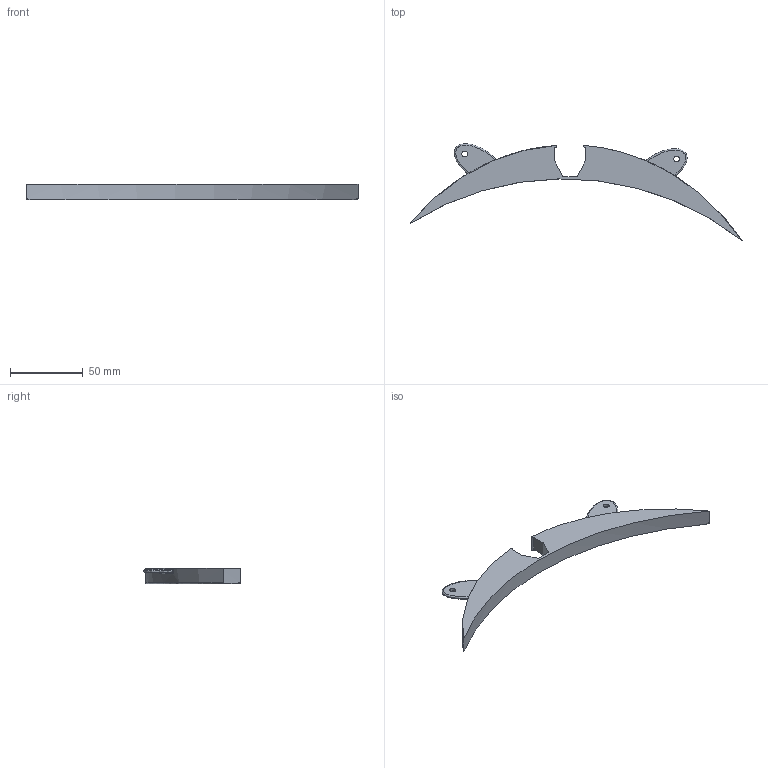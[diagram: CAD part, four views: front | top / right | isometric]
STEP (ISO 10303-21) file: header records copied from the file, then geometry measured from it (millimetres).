
FILE_DESCRIPTION(/* description */ (''),/* implementation_level */ '2;1');
FILE_NAME(/* name */ 'cammount.step',/* time_stamp */ '2026-06-27T03:52:31+02:00',/* author */ (''),/* organization */ (''),/* preprocessor_version */ 'ST-DEVELOPER v20.1',/* originating_system */ 'Autodesk Translation Framework v15.8.0.0',/* authorisation */ '');
FILE_SCHEMA (('AUTOMOTIVE_DESIGN { 1 0 10303 214 3 1 1 }'));
Length unit declared in the file: millimetre
Products named in the file (1): 2026-06-27-03-52-31-804
Bounding box: 228.43 x 66.45 x 11 mm (x, y, z)
Volume: 38941.9 mm3; surface area: 14137.6 mm2
Topology: 1 solids, 1 shells, 43 faces, 105 edges, 66 vertices
Faces by surface type: bspline 18, plane 15, cylinder 10
Full cylindrical faces by diameter (mm): 4 x2
Entity records: 2315 total; most frequent: CARTESIAN_POINT 1400, ORIENTED_EDGE 210, DIRECTION 131, EDGE_CURVE 105, VERTEX_POINT 66, EDGE_LOOP 49, B_SPLINE_CURVE_WITH_KNOTS 48, AXIS2_PLACEMENT_3D 48
